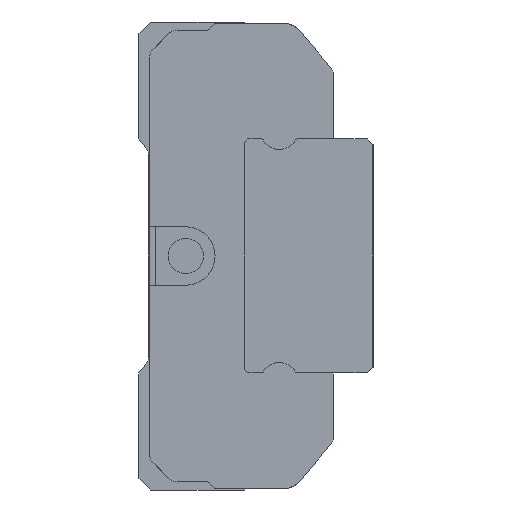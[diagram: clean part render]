
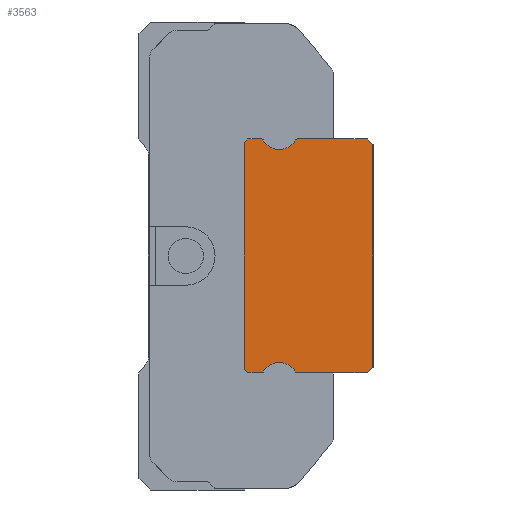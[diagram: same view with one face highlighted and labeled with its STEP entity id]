
A CAD part, left-side view. The second image highlights one B-rep face of the part: STEP entity #3563.
In plain terms, the highlighted planar face has unit normal (-1, 0, 0).
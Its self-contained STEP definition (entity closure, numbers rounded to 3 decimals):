
#58=CIRCLE('',#3777,0.15);
#60=CIRCLE('',#3780,1.6);
#62=CIRCLE('',#3783,0.15);
#68=CIRCLE('',#3795,0.15);
#70=CIRCLE('',#3798,1.6);
#72=CIRCLE('',#3801,0.15);
#364=ORIENTED_EDGE('',*,*,#1328,.F.);
#365=ORIENTED_EDGE('',*,*,#1382,.F.);
#366=ORIENTED_EDGE('',*,*,#1375,.F.);
#367=ORIENTED_EDGE('',*,*,#1372,.F.);
#368=ORIENTED_EDGE('',*,*,#1369,.F.);
#369=ORIENTED_EDGE('',*,*,#1366,.T.);
#370=ORIENTED_EDGE('',*,*,#1363,.F.);
#371=ORIENTED_EDGE('',*,*,#1360,.F.);
#372=ORIENTED_EDGE('',*,*,#1357,.F.);
#373=ORIENTED_EDGE('',*,*,#1354,.F.);
#374=ORIENTED_EDGE('',*,*,#1347,.F.);
#375=ORIENTED_EDGE('',*,*,#1344,.F.);
#376=ORIENTED_EDGE('',*,*,#1341,.F.);
#377=ORIENTED_EDGE('',*,*,#1338,.T.);
#378=ORIENTED_EDGE('',*,*,#1335,.F.);
#379=ORIENTED_EDGE('',*,*,#1332,.F.);
#1328=EDGE_CURVE('',#1854,#1855,#2214,.T.);
#1332=EDGE_CURVE('',#1855,#1858,#2218,.T.);
#1335=EDGE_CURVE('',#1858,#1860,#58,.T.);
#1338=EDGE_CURVE('',#1862,#1860,#60,.T.);
#1341=EDGE_CURVE('',#1862,#1864,#62,.T.);
#1344=EDGE_CURVE('',#1864,#1866,#2224,.T.);
#1347=EDGE_CURVE('',#1866,#1868,#2227,.T.);
#1354=EDGE_CURVE('',#1868,#1874,#2230,.T.);
#1357=EDGE_CURVE('',#1874,#1876,#2233,.T.);
#1360=EDGE_CURVE('',#1876,#1878,#2236,.T.);
#1363=EDGE_CURVE('',#1878,#1880,#68,.T.);
#1366=EDGE_CURVE('',#1882,#1880,#70,.T.);
#1369=EDGE_CURVE('',#1882,#1884,#72,.T.);
#1372=EDGE_CURVE('',#1884,#1886,#2242,.T.);
#1375=EDGE_CURVE('',#1886,#1888,#2245,.T.);
#1382=EDGE_CURVE('',#1888,#1854,#2248,.T.);
#1854=VERTEX_POINT('',#5237);
#1855=VERTEX_POINT('',#5238);
#1858=VERTEX_POINT('',#5246);
#1860=VERTEX_POINT('',#5252);
#1862=VERTEX_POINT('',#5258);
#1864=VERTEX_POINT('',#5264);
#1866=VERTEX_POINT('',#5270);
#1868=VERTEX_POINT('',#5276);
#1874=VERTEX_POINT('',#5290);
#1876=VERTEX_POINT('',#5296);
#1878=VERTEX_POINT('',#5302);
#1880=VERTEX_POINT('',#5308);
#1882=VERTEX_POINT('',#5314);
#1884=VERTEX_POINT('',#5320);
#1886=VERTEX_POINT('',#5326);
#1888=VERTEX_POINT('',#5332);
#2214=LINE('',#5236,#2580);
#2218=LINE('',#5245,#2584);
#2224=LINE('',#5269,#2590);
#2227=LINE('',#5275,#2593);
#2230=LINE('',#5289,#2596);
#2233=LINE('',#5295,#2599);
#2236=LINE('',#5301,#2602);
#2242=LINE('',#5325,#2608);
#2245=LINE('',#5331,#2611);
#2248=LINE('',#5345,#2614);
#2580=VECTOR('',#4142,1000.);
#2584=VECTOR('',#4148,1000.);
#2590=VECTOR('',#4174,1000.);
#2593=VECTOR('',#4179,1000.);
#2596=VECTOR('',#4192,1000.);
#2599=VECTOR('',#4197,1000.);
#2602=VECTOR('',#4202,1000.);
#2608=VECTOR('',#4228,1000.);
#2611=VECTOR('',#4233,1000.);
#2614=VECTOR('',#4246,1000.);
#2971=EDGE_LOOP('',(#364,#365,#366,#367,#368,#369,#370,#371,#372,#373,#374,
#375,#376,#377,#378,#379));
#3209=FACE_BOUND('',#2971,.T.);
#3437=PLANE('',#3811);
#3563=ADVANCED_FACE('',(#3209),#3437,.F.);
#3777=AXIS2_PLACEMENT_3D('',#5251,#4153,#4154);
#3780=AXIS2_PLACEMENT_3D('',#5257,#4160,#4161);
#3783=AXIS2_PLACEMENT_3D('',#5263,#4167,#4168);
#3795=AXIS2_PLACEMENT_3D('',#5307,#4207,#4208);
#3798=AXIS2_PLACEMENT_3D('',#5313,#4214,#4215);
#3801=AXIS2_PLACEMENT_3D('',#5319,#4221,#4222);
#3811=AXIS2_PLACEMENT_3D('',#5348,#4250,#4251);
#4142=DIRECTION('',(0.,-0.707,0.707));
#4148=DIRECTION('',(0.,-1.,0.));
#4153=DIRECTION('',(1.,0.,0.));
#4154=DIRECTION('',(0.,0.,-1.));
#4160=DIRECTION('',(1.,0.,0.));
#4161=DIRECTION('',(0.,0.,-1.));
#4167=DIRECTION('',(1.,0.,0.));
#4168=DIRECTION('',(0.,0.,-1.));
#4174=DIRECTION('',(0.,-1.,0.));
#4179=DIRECTION('',(0.,-0.707,-0.707));
#4192=DIRECTION('',(0.,0.,-1.));
#4197=DIRECTION('',(0.,0.707,-0.707));
#4202=DIRECTION('',(0.,1.,0.));
#4207=DIRECTION('',(1.,0.,0.));
#4208=DIRECTION('',(0.,0.,-1.));
#4214=DIRECTION('',(1.,0.,0.));
#4215=DIRECTION('',(0.,0.,-1.));
#4221=DIRECTION('',(1.,0.,0.));
#4222=DIRECTION('',(0.,0.,-1.));
#4228=DIRECTION('',(0.,1.,0.));
#4233=DIRECTION('',(0.,0.707,0.707));
#4246=DIRECTION('',(0.,0.,1.));
#4250=DIRECTION('',(1.,0.,0.));
#4251=DIRECTION('',(0.,0.,-1.));
#5236=CARTESIAN_POINT('',(-20.,11.,9.7));
#5237=CARTESIAN_POINT('',(-20.,11.,9.7));
#5238=CARTESIAN_POINT('',(-20.,10.7,10.));
#5245=CARTESIAN_POINT('',(-20.,10.7,10.));
#5246=CARTESIAN_POINT('',(-20.,9.53,10.));
#5251=CARTESIAN_POINT('',(-20.,9.53,9.85));
#5252=CARTESIAN_POINT('',(-20.,9.399,9.923));
#5257=CARTESIAN_POINT('',(-20.,8.,10.7));
#5258=CARTESIAN_POINT('',(-20.,6.601,9.923));
#5263=CARTESIAN_POINT('',(-20.,6.47,9.85));
#5264=CARTESIAN_POINT('',(-20.,6.47,10.));
#5269=CARTESIAN_POINT('',(-20.,6.47,10.));
#5270=CARTESIAN_POINT('',(-20.,0.5,10.));
#5275=CARTESIAN_POINT('',(-20.,0.5,10.));
#5276=CARTESIAN_POINT('',(-20.,0.,9.5));
#5289=CARTESIAN_POINT('',(-20.,0.,9.5));
#5290=CARTESIAN_POINT('',(-20.,0.,-9.5));
#5295=CARTESIAN_POINT('',(-20.,0.,-9.5));
#5296=CARTESIAN_POINT('',(-20.,0.5,-10.));
#5301=CARTESIAN_POINT('',(-20.,0.5,-10.));
#5302=CARTESIAN_POINT('',(-20.,6.47,-10.));
#5307=CARTESIAN_POINT('',(-20.,6.47,-9.85));
#5308=CARTESIAN_POINT('',(-20.,6.601,-9.923));
#5313=CARTESIAN_POINT('',(-20.,8.,-10.7));
#5314=CARTESIAN_POINT('',(-20.,9.399,-9.923));
#5319=CARTESIAN_POINT('',(-20.,9.53,-9.85));
#5320=CARTESIAN_POINT('',(-20.,9.53,-10.));
#5325=CARTESIAN_POINT('',(-20.,9.53,-10.));
#5326=CARTESIAN_POINT('',(-20.,10.7,-10.));
#5331=CARTESIAN_POINT('',(-20.,10.7,-10.));
#5332=CARTESIAN_POINT('',(-20.,11.,-9.7));
#5345=CARTESIAN_POINT('',(-20.,11.,-9.7));
#5348=CARTESIAN_POINT('',(-20.,9.53,9.85));
